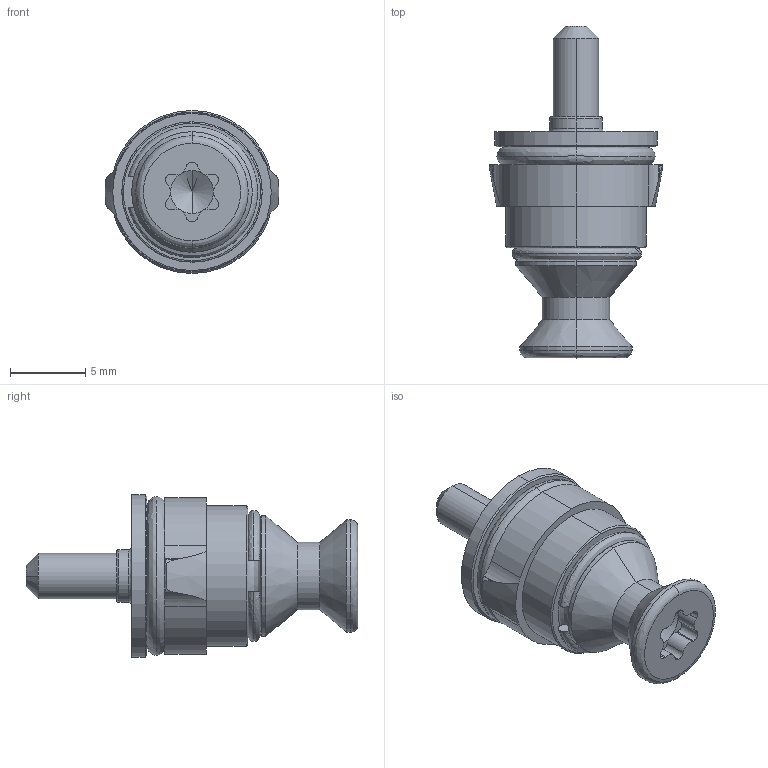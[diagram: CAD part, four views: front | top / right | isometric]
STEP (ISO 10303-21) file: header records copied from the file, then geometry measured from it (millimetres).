
FILE_DESCRIPTION (( 'STEP AP203' ), '1' );
FILE_NAME ('QS022-EAA-M3.STEP', '2016-07-11T09:15:34', ( '' ), ( '' ), 'SwSTEP 2.0', 'SolidWorks 2016', '' );
FILE_SCHEMA (( 'CONFIG_CONTROL_DESIGN' ));
Length unit declared in the file: millimetre
Products named in the file (1): QS022-EAA-M3
Bounding box: 11.52 x 22 x 10.8 mm (x, y, z)
Volume: 884.1 mm3; surface area: 1313.7 mm2
Topology: 5 solids, 5 shells, 119 faces, 282 edges, 171 vertices
Faces by surface type: cylinder 48, plane 27, bspline 22, cone 22
Entity records: 3873 total; most frequent: CARTESIAN_POINT 1129, DIRECTION 584, ORIENTED_EDGE 552, EDGE_CURVE 276, AXIS2_PLACEMENT_3D 246, VERTEX_POINT 171, CIRCLE 148, EDGE_LOOP 127
